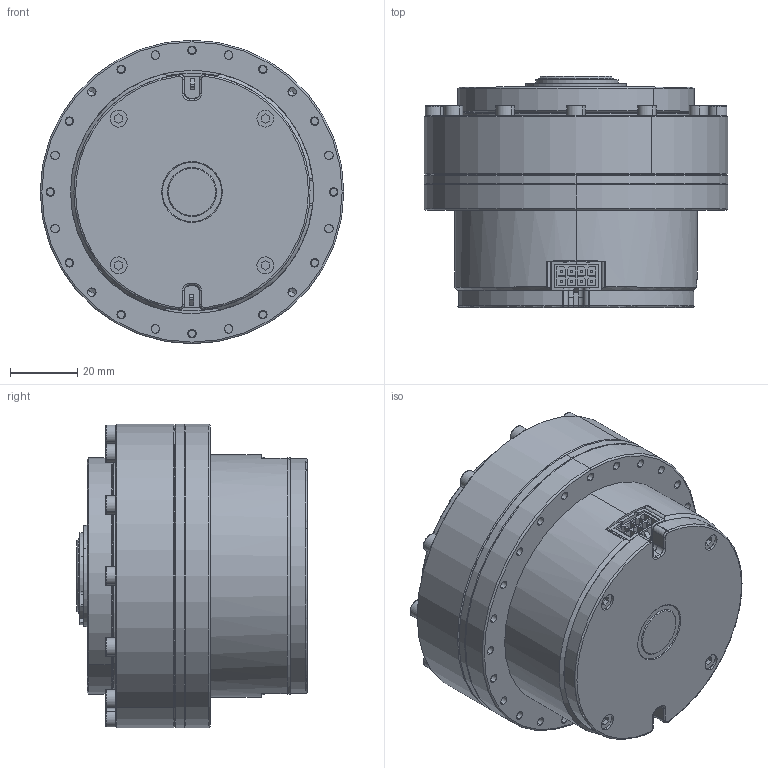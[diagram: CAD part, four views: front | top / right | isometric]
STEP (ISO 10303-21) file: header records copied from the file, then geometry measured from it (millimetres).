
FILE_DESCRIPTION (( 'STEP AP214' ), '1' );
FILE_NAME ('QddPro_6010_51_903D_v2.2.0.STEP', '2019-05-07T09:08:39', ( 'Microsoft' ), ( 'Microsoft' ), 'SwSTEP 2.0', 'SolidWorks 2018', '' );
FILE_SCHEMA (( 'AUTOMOTIVE_DESIGN' ));
Length unit declared in the file: millimetre
Products named in the file (1): QddPro_6010_51_903D_v2.2.0
Bounding box: 90 x 68.47 x 90 mm (x, y, z)
Volume: 263710 mm3; surface area: 139086.3 mm2
Topology: 115 solids, 115 shells, 2913 faces, 7127 edges, 4525 vertices
Faces by surface type: plane 1596, cylinder 781, cone 408, torus 80, bspline 48
Entity records: 130808 total; most frequent: CARTESIAN_POINT 30546, ORIENTED_EDGE 14134, DIRECTION 12992, EDGE_CURVE 7067, VERTEX_POINT 4525, VECTOR 4480, LINE 4480, AXIS2_PLACEMENT_3D 4256
